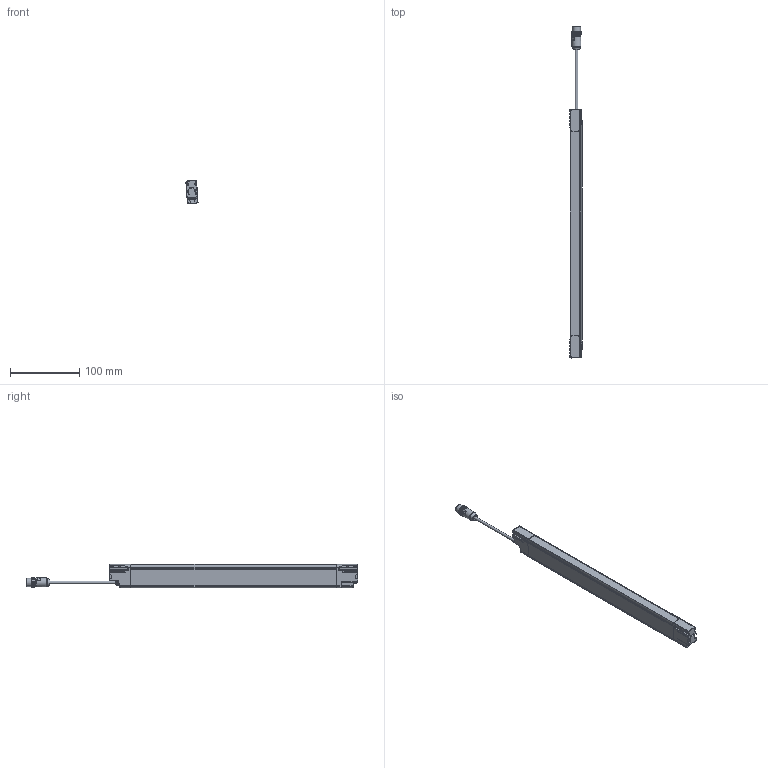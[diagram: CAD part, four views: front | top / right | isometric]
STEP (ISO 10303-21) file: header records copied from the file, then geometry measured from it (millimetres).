
FILE_DESCRIPTION(/* description */ (''),/* implementation_level */ '2;1');
FILE_NAME(/* name */ 'DSD-0627.stp',/* time_stamp */ '2015-02-23T17:04:43+01:00',/* author */ (''),/* organization */ (''),/* preprocessor_version */ 'ST-DEVELOPER v11',/* originating_system */ 'SIEMENS PLM Software NX 7.5',/* authorisation */ '');
FILE_SCHEMA (('AUTOMOTIVE_DESIGN { 1 0 10303 214 1 1 1 1 }'));
Length unit declared in the file: millimetre
Products named in the file (1): AP008103_00
Bounding box: 17.36 x 480.24 x 33.46 mm (x, y, z)
Surface area: 46035.3 mm2 (no closed solid volume)
Topology: 0 solids, 47 shells, 1079 faces, 3644 edges, 2492 vertices
Faces by surface type: cylinder 392, plane 314, bspline 154, torus 112, sphere 68, cone 39
Full cylindrical faces by diameter (mm): 1 x5, 1.2 x2, 1.6 x1, 2.6 x6, 4 x1, 8.3 x1, 9.4 x1, 10.4 x1, 12 x1, 13 x1, 13.5 x1, 14.5 x2
Entity records: 45876 total; most frequent: CARTESIAN_POINT 15152, DIRECTION 6577, ORIENTED_EDGE 5671, EDGE_CURVE 3517, AXIS2_PLACEMENT_3D 2489, VERTEX_POINT 2457, LINE 1599, VECTOR 1599
